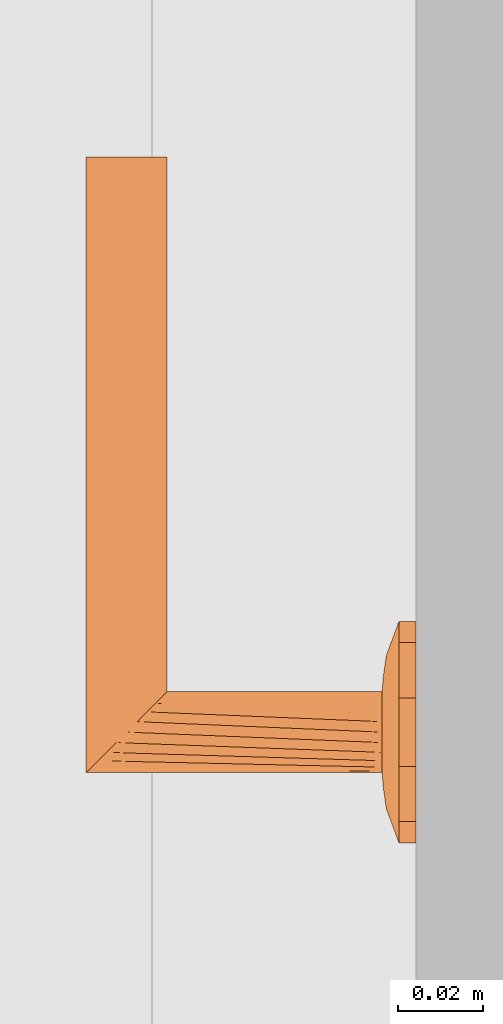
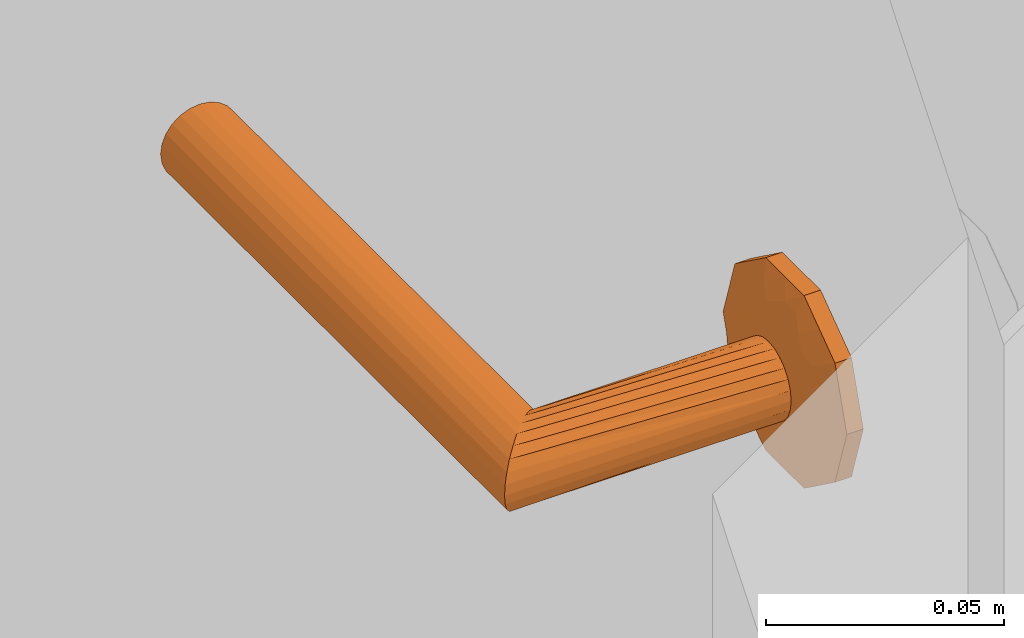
# One storey, part 59 of 68: 1 proxy.
"""IFC2X3 building model written with IfcOpenShell, lengths in millimetres."""

from ifc_helpers import new_model, entity, si_unit, converted_unit, direction, frame, origin, place, context, subcontext, project, spatial, faceted_brep, source, transform, mapped, material, type_object, type_shapes, element, save


model = new_model("IFC2X3")

# Units and contexts
model_context = context("Model", 3, precision=0.01, world=origin(), true_north=direction((6.123233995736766e-17, 1.0)))
plan_context = context("Plan", 3, precision=0.01, world=origin(), true_north=direction((6.123233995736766e-17, 1.0)))
body_context = subcontext(model_context, "Body", "Model", "MODEL_VIEW")
ifc_project = project(units=[si_unit("LENGTHUNIT", "METRE", prefix="MILLI"), converted_unit("PLANEANGLEUNIT", "DEGREE", entity("IfcPlaneAngleMeasure", 0.017453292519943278), si_unit("PLANEANGLEUNIT", "RADIAN"), dimensions=[0, 0, 0, 0, 0, 0, 0]), si_unit("AREAUNIT", "SQUARE_METRE")], contexts=[model_context, plan_context])

# Site, building, storey
site_placement = place(None, origin())
site = spatial("IfcSite", under=ifc_project, at=site_placement, Name="Default", CompositionType="ELEMENT")
building_placement = place(site_placement, origin())
building = spatial("IfcBuilding", under=site, at=building_placement, CompositionType="ELEMENT")
storey_placement = place(building_placement, frame((0.0, 0.0, 6295.0)))
storey = spatial("IfcBuildingStorey", under=building, at=storey_placement, Name="3K", CompositionType="ELEMENT", Elevation=6294.999999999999)

# Proxy
ifc_material = material(Name="<Unnamed>")
building_element_proxy_type = type_object("IfcBuildingElementProxyType", Name="Door-handle_Lever_ABLOY_INOXI_3-19ss-002_RT:Default", PredefinedType="NOTDEFINED", material=ifc_material)
shared_shape = source(origin(), body_context, "Body", "Brep", [
    faceted_brep([(0.0, 0.0, 0.0), (21.034441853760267, -15.282416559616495, 0.0), (14.534441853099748, -20.00494299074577, 0.0), (8.034441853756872, -24.72746942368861, 0.0), (0.0, -24.72746942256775, 0.0), (23.51722092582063, -7.6412082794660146, 0.0), (26.0, 0.0, 0.0), (-8.034441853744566, -24.727469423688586, 0.0), (-14.534441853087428, -20.00494299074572, 0.0), (-21.03444185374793, -15.282416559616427, 0.0), (-23.517220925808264, -7.641208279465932, 0.0), (-26.0, 0.0, 0.0), (-23.517220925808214, 7.641208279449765, 0.0), (23.517220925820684, 7.641208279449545, 0.0), (21.034441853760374, 15.282416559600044, 0.0), (14.53444185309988, 20.00494299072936, 0.0), (8.034441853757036, 24.72746942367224, 0.0), (-21.034441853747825, 15.282416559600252, 0.0), (-14.53444185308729, 20.004942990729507, 0.0), (-8.0344418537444, 24.72746942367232, 0.0), (0.0, 24.72746942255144, 0.0), (0.0, 0.0, 8.0), (4.7500000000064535, -8.227241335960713, 8.0), (5.937500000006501, -6.170431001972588, 8.0), (7.125000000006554, -4.113620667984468, 8.0), (8.312500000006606, -2.0568103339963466, 8.0), (9.500000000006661, 0.0, 8.0), (8.312500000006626, 2.056810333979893, 8.0), (2.3750000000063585, -8.227241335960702, 8.0), (0.0, -8.227241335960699, 8.0), (-2.3749999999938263, -8.227241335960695, 8.0), (-4.749999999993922, -8.227241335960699, 8.0), (-5.937499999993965, -6.170431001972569, 8.0), (-7.124999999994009, -4.113620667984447, 8.0), (-8.312499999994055, -2.056810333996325, 8.0), (-9.499999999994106, 0.0, 8.0), (7.125000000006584, 4.113620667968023, 8.0), (5.937500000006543, 6.170431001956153, 8.0), (4.750000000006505, 8.227241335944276, 8.0), (2.3750000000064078, 8.22724133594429, 8.0), (-8.31249999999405, 2.0568103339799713, 8.0), (-7.12499999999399, 4.113620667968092, 8.0), (-5.9374999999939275, 6.170431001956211, 8.0), (-4.74999999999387, 8.227241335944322, 8.0), (0.0, 8.227241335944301, 8.0), (-2.374999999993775, 8.227241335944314, 8.0), (-22.488765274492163, -10.806469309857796, 4.030771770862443), (-16.663919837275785, -7.932665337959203, 6.877259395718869), (-20.643071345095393, -6.292822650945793, 5.929480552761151), (-12.50457926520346, -5.179566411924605, 7.774932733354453), (-16.764060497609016, -3.820257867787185, 7.1747985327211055), (-9.071726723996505, -10.311606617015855, 7.7520782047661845), (-11.963426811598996, -8.625290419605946, 7.618343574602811), (-11.979136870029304, -13.678312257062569, 6.945778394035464), (5.7585542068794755, -20.96753300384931, 5.871476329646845), (0.0, -24.72746942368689, 4.030771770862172), (8.03444185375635, -24.727469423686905, 4.030771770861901), (16.66391982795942, -7.932665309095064, 6.877259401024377), (22.488765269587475, -10.806469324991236, 4.03077177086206), (20.64307133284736, -6.29282258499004, 5.929480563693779), (14.534441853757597, -20.004942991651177, 4.030771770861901), (9.499431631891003, -18.64368355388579, 6.154325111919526), (-15.783149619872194, -11.991003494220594, 6.50080018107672), (-21.034441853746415, -15.282416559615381, 4.030771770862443), (-14.53444185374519, -20.00494299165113, 4.030771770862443), (-23.012042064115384, 0.0, 5.135401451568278), (-23.943088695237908, -6.330522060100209, 4.030771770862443), (11.96342678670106, -8.62529049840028, 7.618343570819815), (12.504579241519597, -5.179566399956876, 7.774932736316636), (16.764060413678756, -3.8202578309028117, 7.17479855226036), (15.783149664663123, -11.991003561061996, 6.50080015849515), (17.985351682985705, 0.0, 6.993737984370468), (23.012042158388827, 0.0, 5.135401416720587), (8.661516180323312, -10.478936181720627, 7.768126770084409), (-8.03444185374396, -24.727469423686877, 4.030771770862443), (-3.3573143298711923, -21.197247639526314, 5.971427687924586), (-9.941915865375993, -17.061976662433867, 6.522757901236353), (-5.973257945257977, -16.430139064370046, 7.110979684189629), (-7.711266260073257, -12.760344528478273, 7.594456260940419), (11.979136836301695, -13.678312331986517, 6.945778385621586), (7.511307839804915, -13.358932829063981, 7.529187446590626), (5.953298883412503, -16.50608604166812, 7.096344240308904), (-1.5654593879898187, -15.307443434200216, 7.519134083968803), (-7.784980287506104, -20.476295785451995, 5.812837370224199), (2.8135289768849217, -17.76392260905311, 6.993737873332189), (-17.98535168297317, 0.0, 6.993737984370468), (-26.0, 0.0, 4.030771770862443), (-23.51722092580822, -7.641208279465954, 4.030771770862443), (23.943088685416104, -6.33052209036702, 4.030771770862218), (24.308823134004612, -5.204907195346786, 4.030771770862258), (26.0, 0.0, 4.030771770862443), (21.03444185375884, -15.282416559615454, 4.030771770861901), (22.617646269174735, -10.40981439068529, 4.030771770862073), (22.488765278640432, 10.806469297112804, 4.030771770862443), (16.66391984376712, 7.932665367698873, 6.877259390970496), (20.643071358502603, 6.292822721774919, 5.929480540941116), (12.504579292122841, 5.179566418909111, 7.774932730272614), (16.764060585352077, 3.8202579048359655, 7.174798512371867), (9.07172672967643, 10.31160659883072, 7.752078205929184), (11.963426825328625, 8.62529034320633, 7.618343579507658), (11.979136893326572, 13.67831220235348, 6.9457784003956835), (-5.758554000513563, 20.96753314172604, 5.8714763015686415), (0.0, 24.72746942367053, 4.030771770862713), (-8.03444185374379, 24.72746942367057, 4.030771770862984), (-16.663919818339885, 7.932665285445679, 6.877259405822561), (-22.48876526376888, 10.806469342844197, 4.030771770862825), (-20.643071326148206, 6.2928225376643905, 5.929480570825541), (-14.534441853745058, 20.004942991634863, 4.030771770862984), (-9.499431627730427, 18.643683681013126, 6.154325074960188), (15.783149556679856, 11.991003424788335, 6.5008002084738), (21.03444185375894, 15.282416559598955, 4.030771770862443), (14.534441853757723, 20.004942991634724, 4.030771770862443), (23.943088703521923, 6.330522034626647, 4.030771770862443), (-11.96342675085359, 8.625290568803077, 7.618343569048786), (-12.504579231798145, 5.179566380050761, 7.77493273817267), (-16.764060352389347, 3.820257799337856, 7.174798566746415), (-15.78314967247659, 11.991003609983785, 6.500800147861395), (-8.661516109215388, 10.478936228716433, 7.768126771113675), (8.034441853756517, 24.727469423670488, 4.030771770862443), (3.3573144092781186, 21.197247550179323, 5.971427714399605), (9.941915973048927, 17.061976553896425, 6.522757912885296), (5.9732581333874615, 16.430139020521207, 7.110979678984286), (7.711266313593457, 12.760344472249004, 7.5944562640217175), (-11.979136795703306, 13.678312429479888, 6.945778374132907), (-7.511307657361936, 13.358932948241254, 7.5291874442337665), (-5.9532988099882, 16.50608628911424, 7.096344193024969), (1.5654596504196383, 15.3074431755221, 7.519134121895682), (7.784980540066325, 20.476295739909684, 5.812837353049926), (-2.81352881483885, 17.76392263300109, 6.993737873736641), (23.51722092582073, 7.6412082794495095, 4.030771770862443), (-23.94308867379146, 6.330522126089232, 4.030771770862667), (-24.308823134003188, 5.20490719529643, 4.030771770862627), (-21.034441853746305, 15.282416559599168, 4.030771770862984), (-22.617646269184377, 10.409814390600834, 4.0307717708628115)], [[[0, 1, 2]], [[0, 2, 3]], [[0, 3, 4]], [[0, 5, 1]], [[0, 6, 5]], [[0, 4, 7]], [[0, 7, 8]], [[0, 8, 9]], [[0, 9, 10]], [[0, 10, 11]], [[0, 11, 12]], [[0, 13, 6]], [[0, 14, 13]], [[0, 15, 14]], [[0, 16, 15]], [[0, 12, 17]], [[0, 17, 18]], [[0, 18, 19]], [[0, 19, 20]], [[0, 20, 16]], [[21, 22, 23]], [[21, 23, 24]], [[21, 24, 25]], [[21, 25, 26]], [[21, 26, 27]], [[21, 28, 22]], [[21, 29, 28]], [[21, 30, 29]], [[21, 31, 30]], [[21, 32, 31]], [[21, 33, 32]], [[21, 34, 33]], [[21, 35, 34]], [[21, 27, 36]], [[21, 36, 37]], [[21, 37, 38]], [[21, 38, 39]], [[21, 40, 35]], [[21, 41, 40]], [[21, 42, 41]], [[21, 43, 42]], [[21, 39, 44]], [[21, 44, 45]], [[21, 45, 43]], [[46, 47, 48]], [[47, 49, 50]], [[49, 33, 34]], [[51, 52, 53]], [[49, 52, 33]], [[48, 47, 50]], [[54, 55, 56]], [[57, 58, 59]], [[56, 60, 61]], [[62, 63, 64]], [[65, 66, 48]], [[67, 57, 68]], [[68, 69, 25]], [[57, 67, 70]], [[69, 26, 25]], [[62, 53, 52]], [[71, 69, 72]], [[67, 23, 73]], [[74, 55, 75]], [[76, 77, 78]], [[79, 60, 70]], [[69, 59, 72]], [[80, 81, 61]], [[77, 30, 78]], [[82, 30, 77]], [[28, 80, 22]], [[77, 83, 75]], [[75, 82, 77]], [[55, 84, 75]], [[85, 50, 35]], [[24, 68, 25]], [[82, 84, 29]], [[84, 82, 75]], [[31, 78, 30]], [[82, 29, 30]], [[34, 35, 50]], [[52, 49, 47]], [[62, 52, 47]], [[34, 50, 49]], [[53, 78, 51]], [[32, 33, 52]], [[85, 65, 50]], [[66, 65, 86]], [[67, 68, 24]], [[77, 76, 83]], [[65, 48, 50]], [[63, 62, 46]], [[48, 66, 87, 46]], [[62, 47, 46]], [[69, 68, 57]], [[80, 73, 22]], [[70, 67, 79]], [[67, 24, 23]], [[72, 88, 89, 90]], [[69, 71, 26]], [[59, 69, 57]], [[61, 60, 79]], [[62, 64, 53]], [[91, 58, 70]], [[72, 59, 88]], [[57, 70, 58]], [[59, 58, 92]], [[80, 61, 79]], [[91, 70, 60]], [[61, 81, 54]], [[73, 80, 79]], [[28, 84, 81]], [[67, 73, 79]], [[29, 84, 28]], [[22, 73, 23]], [[51, 31, 32]], [[76, 78, 53]], [[53, 64, 76]], [[83, 64, 74]], [[64, 83, 76]], [[75, 83, 74]], [[31, 51, 78]], [[52, 51, 32]], [[28, 81, 80]], [[54, 81, 84]], [[55, 54, 84]], [[61, 54, 56]], [[93, 94, 95]], [[94, 96, 97]], [[96, 36, 27]], [[98, 99, 100]], [[96, 99, 36]], [[95, 94, 97]], [[101, 102, 103]], [[104, 105, 106]], [[103, 107, 108]], [[109, 110, 111]], [[72, 112, 95]], [[113, 104, 114]], [[114, 115, 40]], [[104, 113, 116]], [[115, 35, 40]], [[109, 100, 99]], [[85, 115, 65]], [[113, 42, 117]], [[118, 102, 119]], [[120, 121, 122]], [[123, 107, 116]], [[115, 106, 65]], [[124, 125, 108]], [[121, 39, 122]], [[126, 39, 121]], [[45, 124, 43]], [[121, 127, 119]], [[119, 126, 121]], [[102, 128, 119]], [[71, 97, 26]], [[41, 114, 40]], [[126, 128, 44]], [[128, 126, 119]], [[38, 122, 39]], [[126, 44, 39]], [[27, 26, 97]], [[99, 96, 94]], [[109, 99, 94]], [[27, 97, 96]], [[100, 122, 98]], [[37, 36, 99]], [[71, 72, 97]], [[112, 72, 90]], [[113, 114, 41]], [[121, 120, 127]], [[72, 95, 97]], [[110, 109, 93]], [[95, 112, 129, 93]], [[109, 94, 93]], [[115, 114, 104]], [[124, 117, 43]], [[116, 113, 123]], [[113, 41, 42]], [[65, 130, 131, 86]], [[115, 85, 35]], [[106, 115, 104]], [[108, 107, 123]], [[109, 111, 100]], [[132, 105, 116]], [[65, 106, 130]], [[104, 116, 105]], [[106, 105, 133]], [[124, 108, 123]], [[132, 116, 107]], [[108, 125, 101]], [[117, 124, 123]], [[45, 128, 125]], [[113, 117, 123]], [[44, 128, 45]], [[43, 117, 42]], [[98, 38, 37]], [[120, 122, 100]], [[100, 111, 120]], [[127, 111, 118]], [[111, 127, 120]], [[119, 127, 118]], [[38, 98, 122]], [[99, 98, 37]], [[45, 125, 124]], [[101, 125, 128]], [[102, 101, 128]], [[108, 101, 103]], [[7, 74, 64, 63, 9, 8]], [[10, 9, 63, 46, 87, 66, 86, 11]], [[6, 90, 89, 88, 92, 1, 5]], [[1, 58, 91]], [[74, 7, 4, 3, 56, 55]], [[60, 56, 3, 2, 1, 91]], [[1, 92, 58]], [[14, 110, 93, 129, 112, 90, 6, 13]], [[111, 110, 14, 15, 16, 118]], [[11, 86, 131, 130, 133, 17, 12]], [[17, 105, 132]], [[118, 16, 20, 19, 103, 102]], [[107, 103, 19, 18, 17, 132]], [[17, 133, 105]], [[59, 92, 88]], [[106, 133, 130]]]),
    faceted_brep([(4.7499999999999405, -8.22724133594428, 8.0), (2.4587809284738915, -9.176295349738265, 8.0), (0.0, -9.499999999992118, 8.0), (-2.4587809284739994, -9.176295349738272, 8.0), (-4.7500000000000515, -8.227241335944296, 8.0), (-6.717514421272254, -6.717514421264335, 8.0), (-8.227241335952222, -4.74999999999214, 8.0), (-9.176295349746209, -2.4587809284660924, 8.0), (-9.500000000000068, 0.0, 8.0), (-9.176295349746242, 2.458780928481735, 8.0), (-8.227241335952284, 4.750000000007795, 8.0), (-6.717514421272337, 6.717514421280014, 8.0), (-4.750000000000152, 8.227241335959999, 8.0), (-2.4587809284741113, 9.176295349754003, 8.0), (0.0, 9.500000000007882, 8.0), (2.4587809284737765, 9.176295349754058, 8.0), (4.7499999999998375, 8.227241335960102, 8.0), (6.717514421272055, 6.717514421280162, 8.0), (8.22724133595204, 4.75000000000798, 8.0), (9.17629534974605, 2.458780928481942, 8.0), (9.499999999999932, 0.0, 8.0), (9.17629534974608, -2.458780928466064, 8.0), (8.227241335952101, -4.749999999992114, 8.0), (6.717514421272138, -6.7175144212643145, 8.0), (-8.227241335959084, 4.7499999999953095, 59.772758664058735), (-6.717514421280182, 6.7175144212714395, 61.282485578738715), (-9.176295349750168, 2.458780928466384, 58.82370465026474), (-4.750000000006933, 8.227241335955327, 63.25000000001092), (-2.4587809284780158, 9.176295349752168, 65.54121907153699), (-9.500000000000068, 0.0, 58.50000000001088), (0.0, 9.50000000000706, 68.0), (4.750000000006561, 8.227241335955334, 72.75000000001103), (2.4587809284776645, 9.17629534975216, 70.45878092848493), (6.717514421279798, 6.7175144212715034, 74.71751442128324), (8.22724133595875, 4.749999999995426, 76.22724133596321), (9.17629534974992, 2.458780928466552, 77.17629534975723), (9.499999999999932, 0.0, 77.50000000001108), (9.176295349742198, -2.4587809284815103, 77.1762953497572), (8.227241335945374, -4.750000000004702, 76.22724133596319), (6.7175144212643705, -6.717514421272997, 74.7175144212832), (4.749999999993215, -8.227241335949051, 72.75000000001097), (2.4587809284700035, -9.17629534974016, 70.45878092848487), (0.0, -9.49999999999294, 68.0), (-2.4587809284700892, -9.176295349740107, 65.54121907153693), (-4.749999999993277, -8.227241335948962, 63.250000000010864), (-6.717514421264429, -6.717514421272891, 61.282485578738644), (-9.176295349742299, -2.458780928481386, 58.8237046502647), (-8.227241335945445, -4.750000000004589, 59.77275866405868), (-135.0, -9.176295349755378, 70.4587809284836), (-135.0, -8.227241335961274, 72.75000000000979), (-135.0, -6.717514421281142, 74.71751442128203), (-135.0, -4.750000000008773, 76.22724133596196), (-135.0, -2.4587809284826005, 77.17629534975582), (-135.0, 0.0, 77.5000000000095), (-135.0, 2.4587809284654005, 77.17629534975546), (-135.0, 4.749999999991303, 76.22724133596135), (-135.0, 6.717514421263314, 74.71751442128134), (-135.0, 8.227241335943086, 72.75000000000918), (-135.0, 9.17629534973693, 70.45878092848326), (-135.0, 9.499999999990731, 68.0), (-135.0, 9.17629534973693, 65.54121907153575), (-135.0, 8.227241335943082, 63.250000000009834), (-135.0, 6.717514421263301, 61.28248557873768), (-135.0, 4.749999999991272, 59.772758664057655), (-135.0, 2.458780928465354, 58.823704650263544), (-135.0, 0.0, 58.50000000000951), (-135.0, -2.458780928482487, 58.82370465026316), (-135.0, -4.750000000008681, 59.772758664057), (-135.0, -6.7175144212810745, 61.28248557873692), (-135.0, -8.227241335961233, 63.25000000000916), (-135.0, -9.176295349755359, 65.54121907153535), (-135.0, -9.500000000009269, 68.0)], [[[0, 1, 2, 3, 4, 5, 6, 7, 8, 9, 10, 11, 12, 13, 14, 15, 16, 17, 18, 19, 20, 21, 22, 23]], [[24, 25, 11, 10]], [[26, 24, 10, 9]], [[14, 27, 28]], [[13, 27, 14]], [[25, 27, 13]], [[29, 26, 9, 8]], [[12, 11, 25]], [[25, 13, 12]], [[28, 30, 15]], [[31, 17, 32]], [[33, 18, 31]], [[19, 34, 35]], [[33, 34, 19]], [[20, 19, 35, 36]], [[16, 15, 30]], [[14, 28, 15]], [[19, 18, 33]], [[17, 31, 18]], [[17, 16, 32]], [[30, 32, 16]], [[20, 36, 37, 21]], [[38, 21, 37]], [[22, 39, 40]], [[38, 39, 21]], [[23, 40, 41]], [[39, 22, 21]], [[1, 42, 43]], [[42, 1, 0]], [[23, 41, 0]], [[23, 22, 40]], [[41, 42, 0]], [[44, 45, 3]], [[43, 44, 2]], [[46, 29, 8, 7]], [[47, 46, 7, 6]], [[45, 47, 6, 5]], [[45, 4, 3]], [[3, 2, 44]], [[5, 4, 45]], [[43, 2, 1]], [[48, 49, 50, 51, 52, 53, 54, 55, 56, 57, 58, 59, 60, 61, 62, 63, 64, 65, 66, 67, 68, 69, 70, 71]], [[64, 63, 24, 26]], [[65, 64, 26, 29]], [[61, 60, 28, 27]], [[62, 61, 27, 25]], [[63, 62, 25, 24]], [[59, 30, 28, 60]], [[57, 56, 33, 31]], [[58, 57, 31, 32]], [[54, 53, 36, 35]], [[55, 54, 35, 34]], [[56, 55, 34, 33]], [[32, 30, 59, 58]], [[52, 51, 38, 37]], [[53, 52, 37, 36]], [[49, 48, 41, 40]], [[50, 49, 40, 39]], [[51, 50, 39, 38]], [[42, 41, 48, 71]], [[69, 68, 45, 44]], [[70, 69, 44, 43]], [[66, 65, 29, 46]], [[67, 66, 46, 47]], [[68, 67, 47, 45]], [[42, 71, 70, 43]]]),
])
type_shapes(building_element_proxy_type, [shared_shape])
proxy_placement = place(storey_placement, frame((12114.993534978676, 4419.997631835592, 1000.0), z_axis=(-1.0, 0.0, 0.0), x_axis=(0.0, -1.0, 0.0)))
element("IfcBuildingElementProxy", 1, at=proxy_placement, inside=storey, type_object=building_element_proxy_type, material=ifc_material, Name="Door-handle_Lever_ABLOY_INOXI_3-19ss-002_RT:Default", ObjectType="Door-handle_Lever_ABLOY_INOXI_3-19ss-002_RT:Default", context=body_context, shape_type="MappedRepresentation", body=[
    mapped(shared_shape, transform((0.0, 0.0, 0.0), scale=1.0)),
])

save(model, "model.ifc")
